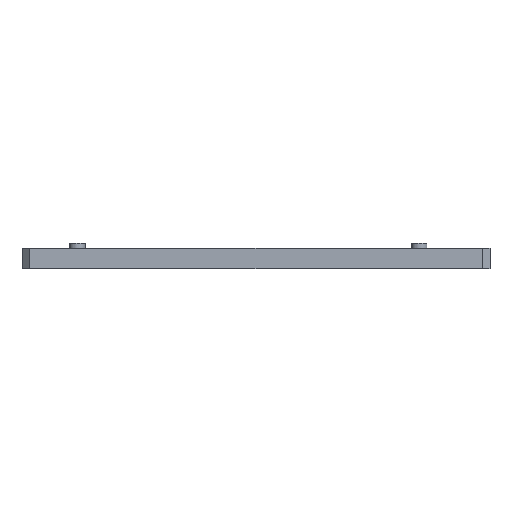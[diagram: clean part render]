
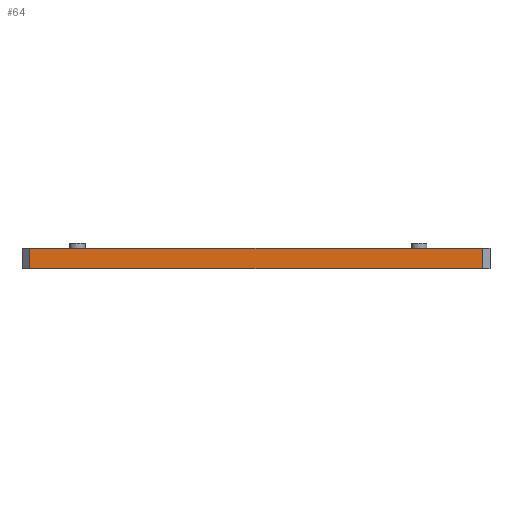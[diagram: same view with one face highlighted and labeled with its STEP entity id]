
A CAD part, front view. The second image highlights one B-rep face of the part: STEP entity #64.
In plain terms, the highlighted planar face has unit normal (0, -1, 0).
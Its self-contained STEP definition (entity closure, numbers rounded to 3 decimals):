
#64 = ADVANCED_FACE ( 'NONE', ( #602 ), #1214, .F. ) ;
#68 = ORIENTED_EDGE ( 'NONE', *, *, #936, .F. ) ;
#123 = CARTESIAN_POINT ( 'NONE',  ( -98., -95., 0. ) ) ;
#253 = DIRECTION ( 'NONE',  ( 0., 0., 1. ) ) ;
#280 = LINE ( 'NONE', #123, #1777 ) ;
#292 = EDGE_CURVE ( 'NONE', #1407, #392, #708, .T. ) ;
#369 = DIRECTION ( 'NONE',  ( 0., 0., -1. ) ) ;
#392 = VERTEX_POINT ( 'NONE', #414 ) ;
#414 = CARTESIAN_POINT ( 'NONE',  ( -98., -95., 0. ) ) ;
#493 = VECTOR ( 'NONE', #1809, 1000. ) ;
#503 = ORIENTED_EDGE ( 'NONE', *, *, #292, .T. ) ;
#546 = DIRECTION ( 'NONE',  ( 0., 0., -1. ) ) ;
#602 = FACE_OUTER_BOUND ( 'NONE', #1538, .T. ) ;
#667 = VERTEX_POINT ( 'NONE', #1596 ) ;
#708 = LINE ( 'NONE', #828, #1406 ) ;
#812 = CARTESIAN_POINT ( 'NONE',  ( 78., -95., 8. ) ) ;
#828 = CARTESIAN_POINT ( 'NONE',  ( -98., -95., 8. ) ) ;
#894 = ORIENTED_EDGE ( 'NONE', *, *, #1093, .F. ) ;
#936 = EDGE_CURVE ( 'NONE', #1407, #1847, #941, .T. ) ;
#939 = CARTESIAN_POINT ( 'NONE',  ( -98., -95., 8. ) ) ;
#941 = LINE ( 'NONE', #1064, #493 ) ;
#1011 = DIRECTION ( 'NONE',  ( 1., 0., 0. ) ) ;
#1039 = VECTOR ( 'NONE', #369, 1000. ) ;
#1064 = CARTESIAN_POINT ( 'NONE',  ( -98., -95., 8. ) ) ;
#1093 = EDGE_CURVE ( 'NONE', #1847, #667, #1124, .T. ) ;
#1124 = LINE ( 'NONE', #1263, #1039 ) ;
#1214 = PLANE ( 'NONE',  #1442 ) ;
#1263 = CARTESIAN_POINT ( 'NONE',  ( 78., -95., 8. ) ) ;
#1406 = VECTOR ( 'NONE', #546, 1000. ) ;
#1407 = VERTEX_POINT ( 'NONE', #939 ) ;
#1442 = AXIS2_PLACEMENT_3D ( 'NONE', #1593, #1805, #253 ) ;
#1538 = EDGE_LOOP ( 'NONE', ( #1791, #894, #68, #503 ) ) ;
#1593 = CARTESIAN_POINT ( 'NONE',  ( -98., -95., 8. ) ) ;
#1596 = CARTESIAN_POINT ( 'NONE',  ( 78., -95., 0. ) ) ;
#1712 = EDGE_CURVE ( 'NONE', #392, #667, #280, .T. ) ;
#1777 = VECTOR ( 'NONE', #1011, 1000. ) ;
#1791 = ORIENTED_EDGE ( 'NONE', *, *, #1712, .T. ) ;
#1805 = DIRECTION ( 'NONE',  ( 0., 1., 0. ) ) ;
#1809 = DIRECTION ( 'NONE',  ( 1., 0., 0. ) ) ;
#1847 = VERTEX_POINT ( 'NONE', #812 ) ;
